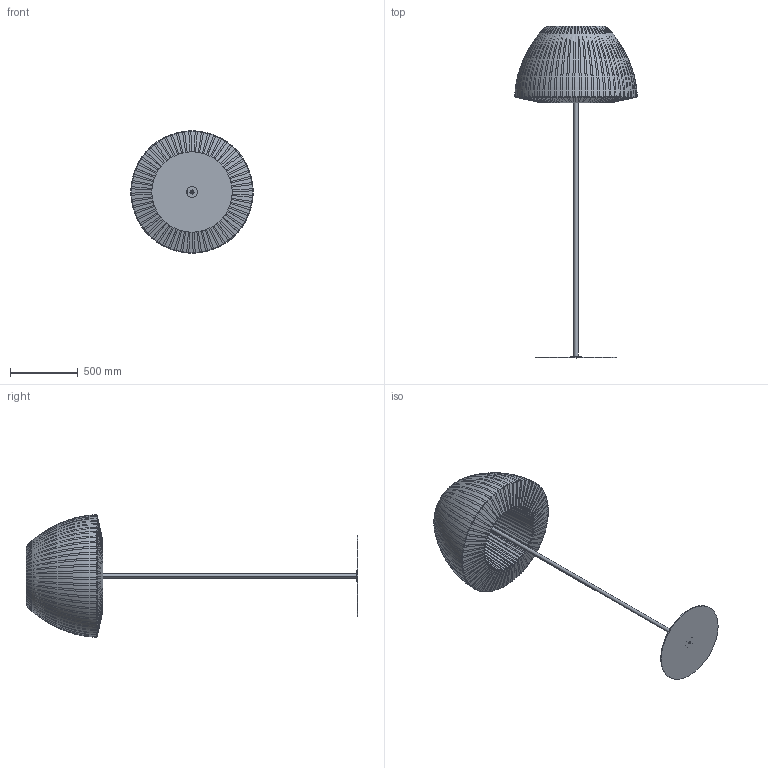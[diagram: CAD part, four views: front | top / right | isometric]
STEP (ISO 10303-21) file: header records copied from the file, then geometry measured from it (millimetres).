
FILE_DESCRIPTION (( 'STEP AP203' ), '1' );
FILE_NAME ('PTBEL090E27-PER 3D.STEP', '2025-06-25T10:16:49', ( '' ), ( '' ), 'SwSTEP 2.0', 'SolidWorks 2024', '' );
FILE_SCHEMA (( 'CONFIG_CONTROL_DESIGN' ));
Length unit declared in the file: millimetre
Products named in the file (7): PSPBELL090; WSCM2C0187-0100-00-I; MPTBEL090E27; PTBEL090E27-PER 3D; WSCM2J0131-0100-00; WSCM2D0059-0100-00; WSCM2C0192-0100-00
Assembly tree (6 placements, depth 4):
  PTBEL090E27-PER 3D
    MPTBEL090E27
      WSCM2C0192-0100-00
      WSCM2C0187-0100-00-I
      WSCM2J0131-0100-00
        WSCM2D0059-0100-00
    PSPBELL090
Bounding box: 903.98 x 2455.19 x 903.98 mm (x, y, z)
Volume: 5626912.2 mm3; surface area: 8224623.5 mm2
Topology: 63 solids, 63 shells, 1095 faces, 2878 edges, 1918 vertices
Faces by surface type: torus 480, cone 244, plane 201, bspline 152, cylinder 18
Entity records: 49022 total; most frequent: CARTESIAN_POINT 20385, DIRECTION 6307, ORIENTED_EDGE 5756, EDGE_CURVE 2878, AXIS2_PLACEMENT_3D 2792, VERTEX_POINT 1918, CIRCLE 1838, EDGE_LOOP 1236
